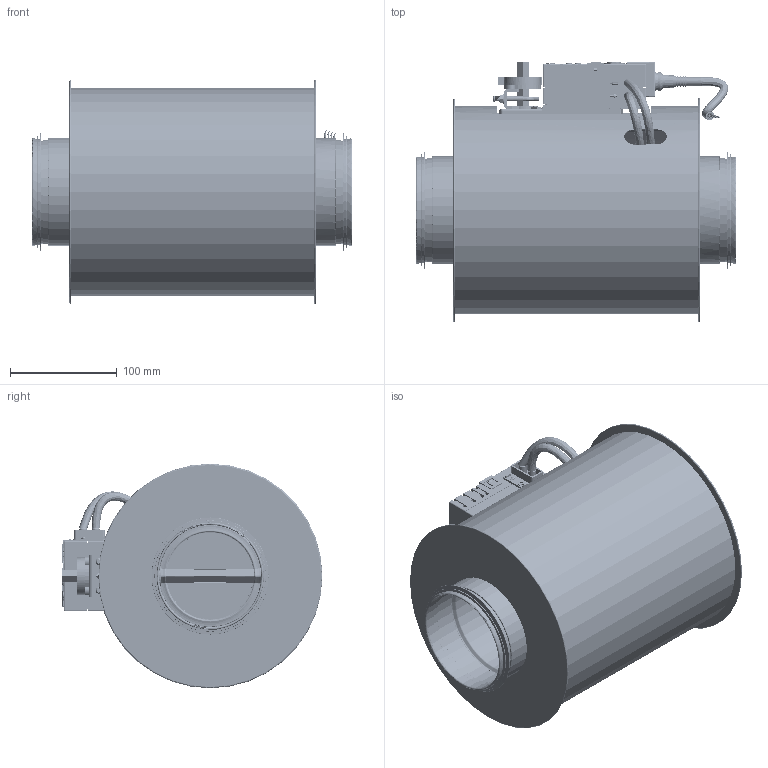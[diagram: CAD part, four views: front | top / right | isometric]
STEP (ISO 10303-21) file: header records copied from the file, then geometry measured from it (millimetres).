
FILE_DESCRIPTION (( 'STEP AP214' ), '1' );
FILE_NAME ('VAV-RI100.STEP', '2025-03-06T11:38:33', ( '' ), ( '' ), 'SwSTEP 2.0', 'SolidWorks 2025', '' );
FILE_SCHEMA (( 'AUTOMOTIVE_DESIGN' ));
Length unit declared in the file: millimetre
Products named in the file (22): CROSS_PIECE; VSRV_Zapfen; VAV-RI100; DB_DN100; CROSS_PLUG; CROSS_DN100; CROSS_WING100; Sicherungsscheibexxx_x_x; Abschlusskappexxx_x_x; Dichtung_innenxxx_x_x; Ventilklappexxx_x_x; LMV-D3-MP; LDE_DN100; Label VAVR100; Screw 4.0x8mmxxx_x_x; BELIMO_MOTOR BRACKET; Achse Vierkant 8x8xxx_x_x; Dichtung_Vierkantxxx_x_x; Teil7^VAV-RI100; Isogehäuse_DN100; KLAPPE; BLECHSCHRAUBE
Assembly tree (35 placements, depth 3):
  VAV-RI100
    DB_DN100
    BELIMO_MOTOR BRACKET
    CROSS_DN100
      CROSS_PIECE
      CROSS_WING100  x4
      CROSS_PLUG  x3
      VSRV_Zapfen
    LDE_DN100  x2
    BLECHSCHRAUBE  x3
    LMV-D3-MP
    KLAPPE
      Abschlusskappexxx_x_x  x2
      Achse Vierkant 8x8xxx_x_x
      Dichtung_innenxxx_x_x  x2
      Dichtung_Vierkantxxx_x_x  x2
      Sicherungsscheibexxx_x_x  x2
      Ventilklappexxx_x_x
      Screw 4.0x8mmxxx_x_x  x3
    Label VAVR100
    Isogehäuse_DN100
    Teil7^VAV-RI100
Bounding box: 300.34 x 244.54 x 210.5 mm (x, y, z)
Volume: 250927.2 mm3; surface area: 806080.1 mm2
Topology: 35 solids, 53 shells, 7068 faces, 19112 edges, 12544 vertices
Faces by surface type: plane 3083, bspline 2527, cylinder 1183, torus 153, cone 89, sphere 33
Full cylindrical faces by diameter (mm): 1 x10, 1.911 x6, 2 x16, 2.5 x6, 3 x1, 3.356 x18, 3.5 x3, 3.927 x30, 4 x2, 5 x2, 5.5 x3, 6 x30, 7.5 x2, 8 x21, 11 x1, 16 x2, 20 x2, 21 x2, 21.422 x2, 23.5 x2, 25 x2, 96.74 x2, 99.14 x4, 100 x1, 101 x1, 109.74 x2, 193 x1, 194 x2, 195 x1
Entity records: 370592 total; most frequent: CARTESIAN_POINT 168361, ORIENTED_EDGE 35375, EDGE_CURVE 17709, DIRECTION 16723, VERTEX_POINT 11737, B_SPLINE_CURVE_WITH_KNOTS 11309, EDGE_LOOP 7355, FACE_OUTER_BOUND 6739
